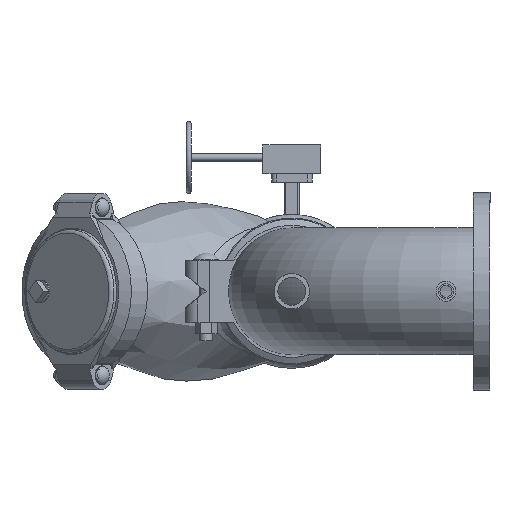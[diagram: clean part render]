
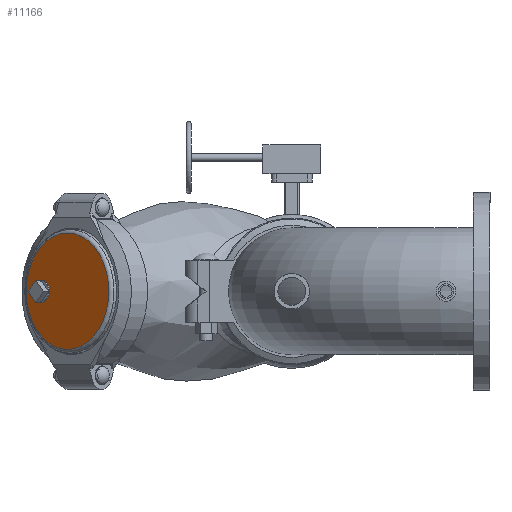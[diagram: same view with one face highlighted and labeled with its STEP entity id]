
A CAD part, front view. The second image highlights one B-rep face of the part: STEP entity #11166.
In plain terms, the highlighted planar face has unit normal (-0.707, -0.707, 0) as drawn and (1, 0, 0) by its records, which use the part's own axes.
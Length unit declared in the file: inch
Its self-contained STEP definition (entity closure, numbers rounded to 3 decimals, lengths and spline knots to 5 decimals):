
#2178=FACE_BOUND('',#3191,.T.);
#2537=FACE_OUTER_BOUND('',#3190,.T.);
#3190=EDGE_LOOP('',(#8228,#8229));
#3191=EDGE_LOOP('',(#8230));
#3844=CIRCLE('',#12317,0.75);
#3852=CIRCLE('',#12328,3.9705);
#3853=CIRCLE('',#12329,3.9705);
#4671=VERTEX_POINT('',#21911);
#4679=VERTEX_POINT('',#21932);
#4680=VERTEX_POINT('',#21933);
#5951=EDGE_CURVE('',#4671,#4671,#3844,.T.);
#5960=EDGE_CURVE('',#4679,#4680,#3852,.T.);
#5961=EDGE_CURVE('',#4680,#4679,#3853,.T.);
#8228=ORIENTED_EDGE('',*,*,#5960,.T.);
#8229=ORIENTED_EDGE('',*,*,#5961,.T.);
#8230=ORIENTED_EDGE('',*,*,#5951,.T.);
#10081=PLANE('',#12331);
#11166=ADVANCED_FACE('',(#2537,#2178),#10081,.T.);
#12317=AXIS2_PLACEMENT_3D('',#21913,#14478,#14479);
#12328=AXIS2_PLACEMENT_3D('',#21934,#14501,#14502);
#12329=AXIS2_PLACEMENT_3D('',#21935,#14503,#14504);
#12331=AXIS2_PLACEMENT_3D('',#21937,#14507,#14508);
#14478=DIRECTION('center_axis',(-1.,0.,0.));
#14479=DIRECTION('ref_axis',(0.,0.,1.));
#14501=DIRECTION('center_axis',(1.,0.,0.));
#14502=DIRECTION('ref_axis',(0.,0.,-1.));
#14503=DIRECTION('center_axis',(1.,0.,0.));
#14504=DIRECTION('ref_axis',(0.,0.,-1.));
#14507=DIRECTION('center_axis',(1.,0.,0.));
#14508=DIRECTION('ref_axis',(0.,0.,-1.));
#21911=CARTESIAN_POINT('',(1.57,2.5,-0.75));
#21913=CARTESIAN_POINT('Origin',(1.57,2.5,0.));
#21932=CARTESIAN_POINT('',(1.57,3.9705,0.));
#21933=CARTESIAN_POINT('',(1.57,0.,3.9705));
#21934=CARTESIAN_POINT('Origin',(1.57,0.,0.));
#21935=CARTESIAN_POINT('Origin',(1.57,0.,0.));
#21937=CARTESIAN_POINT('Origin',(1.57,0.,0.));
